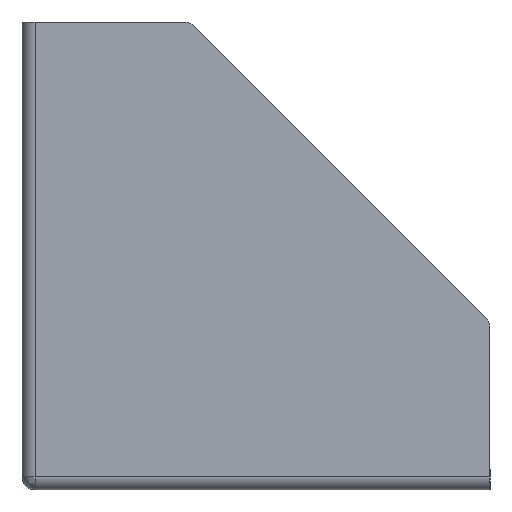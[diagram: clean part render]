
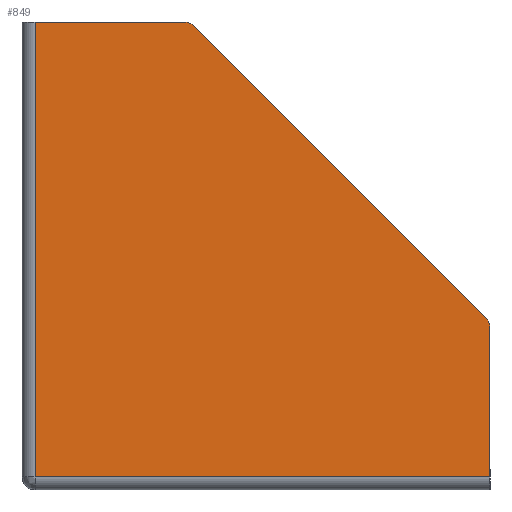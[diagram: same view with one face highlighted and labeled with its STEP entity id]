
A CAD part, front view. The second image highlights one B-rep face of the part: STEP entity #849.
In plain terms, the highlighted planar face has unit normal (0, -1, 0).
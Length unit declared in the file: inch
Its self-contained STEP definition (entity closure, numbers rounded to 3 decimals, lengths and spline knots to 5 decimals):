
#11 = CARTESIAN_POINT ( 'NONE',  ( 3.33839, 0., -2.09389 ) ) ;
#12 = VERTEX_POINT ( 'NONE', #542 ) ;
#29 = CARTESIAN_POINT ( 'NONE',  ( 0.09375, 0., 0.03125 ) ) ;
#40 = CARTESIAN_POINT ( 'NONE',  ( 3.375, 0., -3.34375 ) ) ;
#44 = DIRECTION ( 'NONE',  ( 0., 0., 1. ) ) ;
#52 = ORIENTED_EDGE ( 'NONE', *, *, #580, .F. ) ;
#72 = LINE ( 'NONE', #709, #440 ) ;
#108 = CARTESIAN_POINT ( 'NONE',  ( 1.24986, 0., -0.00536 ) ) ;
#110 = CIRCLE ( 'NONE', #452, 0.125 ) ;
#116 = VECTOR ( 'NONE', #44, 39.37008 ) ;
#119 = CARTESIAN_POINT ( 'NONE',  ( 0.09375, 0., -3.25 ) ) ;
#127 = ORIENTED_EDGE ( 'NONE', *, *, #179, .T. ) ;
#141 = DIRECTION ( 'NONE',  ( 0., 1., 0. ) ) ;
#155 = LINE ( 'NONE', #290, #707 ) ;
#159 = EDGE_CURVE ( 'NONE', #403, #369, #319, .T. ) ;
#179 = EDGE_CURVE ( 'NONE', #492, #369, #868, .T. ) ;
#220 = FACE_OUTER_BOUND ( 'NONE', #470, .T. ) ;
#250 = DIRECTION ( 'NONE',  ( 0., 1., 0. ) ) ;
#252 = AXIS2_PLACEMENT_3D ( 'NONE', #659, #250, #729 ) ;
#255 = VERTEX_POINT ( 'NONE', #119 ) ;
#277 = CARTESIAN_POINT ( 'NONE',  ( 1.16147, 0., -0.09375 ) ) ;
#284 = ORIENTED_EDGE ( 'NONE', *, *, #506, .F. ) ;
#290 = CARTESIAN_POINT ( 'NONE',  ( 0.09375, 0., -3.34375 ) ) ;
#303 = DIRECTION ( 'NONE',  ( 1., 0., 0. ) ) ;
#313 = DIRECTION ( 'NONE',  ( 0.707, 0., -0.707 ) ) ;
#319 = CIRCLE ( 'NONE', #252, 0.125 ) ;
#336 = ORIENTED_EDGE ( 'NONE', *, *, #413, .F. ) ;
#341 = DIRECTION ( 'NONE',  ( -1., 0., 0. ) ) ;
#369 = VERTEX_POINT ( 'NONE', #837 ) ;
#375 = VECTOR ( 'NONE', #721, 39.37008 ) ;
#399 = LINE ( 'NONE', #108, #718 ) ;
#403 = VERTEX_POINT ( 'NONE', #11 ) ;
#413 = EDGE_CURVE ( 'NONE', #255, #558, #155, .T. ) ;
#440 = VECTOR ( 'NONE', #303, 39.37008 ) ;
#452 = AXIS2_PLACEMENT_3D ( 'NONE', #277, #754, #341 ) ;
#470 = EDGE_LOOP ( 'NONE', ( #336, #52, #127, #586, #793, #726, #284 ) ) ;
#492 = VERTEX_POINT ( 'NONE', #708 ) ;
#506 = EDGE_CURVE ( 'NONE', #558, #12, #72, .T. ) ;
#514 = CARTESIAN_POINT ( 'NONE',  ( 0., 0., -3.25 ) ) ;
#542 = CARTESIAN_POINT ( 'NONE',  ( 1.16147, 0., 0.03125 ) ) ;
#556 = CARTESIAN_POINT ( 'NONE',  ( 0., 0., -3.34375 ) ) ;
#558 = VERTEX_POINT ( 'NONE', #29 ) ;
#580 = EDGE_CURVE ( 'NONE', #492, #255, #741, .T. ) ;
#586 = ORIENTED_EDGE ( 'NONE', *, *, #159, .F. ) ;
#603 = EDGE_CURVE ( 'NONE', #776, #403, #399, .T. ) ;
#625 = DIRECTION ( 'NONE',  ( 0., 0., 1. ) ) ;
#659 = CARTESIAN_POINT ( 'NONE',  ( 3.25, 0., -2.18228 ) ) ;
#668 = CARTESIAN_POINT ( 'NONE',  ( 1.24986, 0., -0.00536 ) ) ;
#684 = PLANE ( 'NONE',  #770 ) ;
#707 = VECTOR ( 'NONE', #840, 39.37008 ) ;
#708 = CARTESIAN_POINT ( 'NONE',  ( 3.375, 0., -3.25 ) ) ;
#709 = CARTESIAN_POINT ( 'NONE',  ( 0., 0., 0.03125 ) ) ;
#718 = VECTOR ( 'NONE', #313, 39.37008 ) ;
#721 = DIRECTION ( 'NONE',  ( -1., 0., 0. ) ) ;
#726 = ORIENTED_EDGE ( 'NONE', *, *, #804, .F. ) ;
#729 = DIRECTION ( 'NONE',  ( 0., 0., 1. ) ) ;
#741 = LINE ( 'NONE', #514, #375 ) ;
#754 = DIRECTION ( 'NONE',  ( 0., 1., 0. ) ) ;
#770 = AXIS2_PLACEMENT_3D ( 'NONE', #556, #141, #625 ) ;
#776 = VERTEX_POINT ( 'NONE', #668 ) ;
#793 = ORIENTED_EDGE ( 'NONE', *, *, #603, .F. ) ;
#804 = EDGE_CURVE ( 'NONE', #12, #776, #110, .T. ) ;
#837 = CARTESIAN_POINT ( 'NONE',  ( 3.375, 0., -2.18228 ) ) ;
#840 = DIRECTION ( 'NONE',  ( 0., 0., 1. ) ) ;
#849 = ADVANCED_FACE ( 'NONE', ( #220 ), #684, .F. ) ;
#868 = LINE ( 'NONE', #40, #116 ) ;
